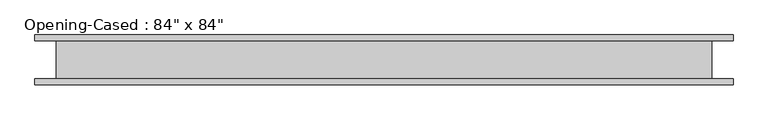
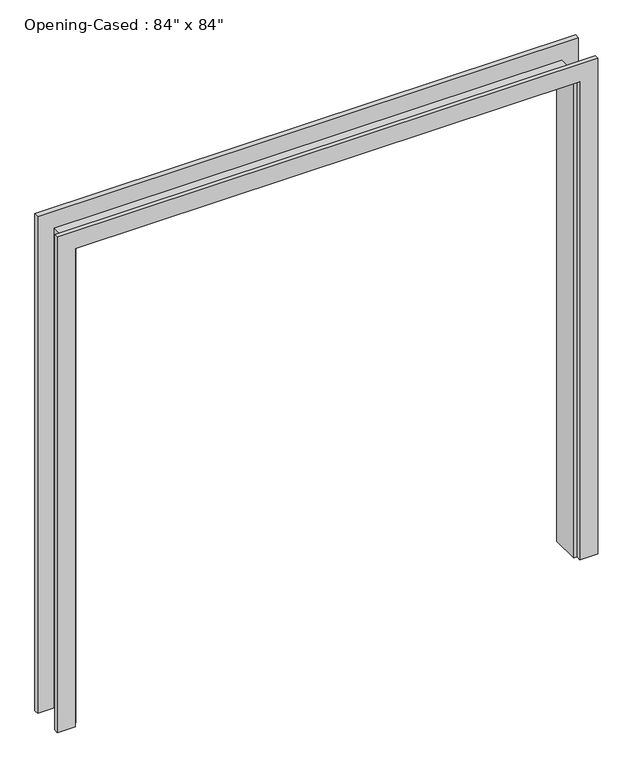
"""IFC4 building model written with IfcOpenShell, lengths in millimetres: proxy geometry."""

from ifc_helpers import new_model, si_unit, frame, origin, place, context, project, spatial, polyline, outline, extrude, faceted_brep, source, transform, mapped, element, save


def proxy_91883092(model_context):
    return source(origin(), model_context, "Body", "SolidModel", [
        extrude(outline(polyline([(0.0, -1068.6386567), (2127.25, -1068.6386567), (2127.25, 1052.2613433), (0.0, 1052.2613433), (0.0, 1128.4613433), (2203.45, 1128.4613433), (2203.45, -1144.8386567), (0.0, -1144.8386567), (0.0, -1068.6386567)])), frame((0.0, -80.9625, 0.0), z_axis=(0.0, 1.0, 0.0), x_axis=(0.0, 0.0, 1.0)), (0.0, 0.0, 1.0), 19.05),
        extrude(outline(polyline([(0.0, 1128.4613433), (2209.8, 1128.4613433), (2209.8, -1144.8386567), (0.0, -1144.8386567), (0.0, -1068.6386567), (2127.25, -1068.6386567), (2127.25, 1052.2613433), (0.0, 1052.2613433), (0.0, 1128.4613433)])), frame((0.0, 61.9125, 0.0), z_axis=(0.0, 1.0, 0.0), x_axis=(0.0, 0.0, 1.0)), (0.0, 0.0, 1.0), 19.05),
        faceted_brep([(1039.5613433, 61.9125, 0.0), (1058.6113433, 61.9125, 0.0), (1058.6113433, -61.9125, 0.0), (1039.5613433, -61.9125, 0.0), (1039.5613433, 61.9125, 2114.55), (1058.6113433, 61.9125, 2133.6), (1058.6113433, -61.9125, 2133.6), (1039.5613433, -61.9125, 2114.55), (-1055.9386567, 61.9125, 2114.55), (-1074.9886567, 61.9125, 2133.6), (-1074.9886567, -61.9125, 2133.6), (-1055.9386567, -61.9125, 2114.55), (-1055.9386567, 61.9125, 0.0), (-1055.9386567, -61.9125, 0.0), (-1074.9886567, -61.9125, 0.0), (-1074.9886567, 61.9125, 0.0)], [[[0, 1, 2, 3]], [[1, 0, 4, 5]], [[2, 1, 5, 6]], [[3, 2, 6, 7]], [[0, 3, 7, 4]], [[5, 4, 8, 9]], [[6, 5, 9, 10]], [[7, 6, 10, 11]], [[4, 7, 11, 8]], [[12, 13, 14, 15]], [[9, 8, 12, 15]], [[10, 9, 15, 14]], [[11, 10, 14, 13]], [[8, 11, 13, 12]]]),
    ])


if __name__ == "__main__":
    model = new_model("IFC4")
    model_context = context("Model", 3, world=origin())
    ifc_project = project(units=[si_unit("LENGTHUNIT", "METRE", prefix="MILLI")], contexts=[model_context])
    site = spatial("IfcSite", under=ifc_project)
    building = spatial("IfcBuilding", under=site)
    placement = place(None, origin())
    proxy_shape = proxy_91883092(model_context)
    element("IfcBuildingElementProxy", 1, Name="Opening-Cased : 84\" x 84\"", ObjectType="Opening-Cased : 84\" x 84\"", at=placement, inside=building, context=model_context, shape_type="MappedRepresentation", body=[
        mapped(proxy_shape, transform((0.0, 0.0, 0.0), x_axis=(1.0, 0.0, 0.0), y_axis=(0.0, 1.0, 0.0), z_axis=(0.0, 0.0, 1.0))),
    ])
    save(model, "model.ifc")
